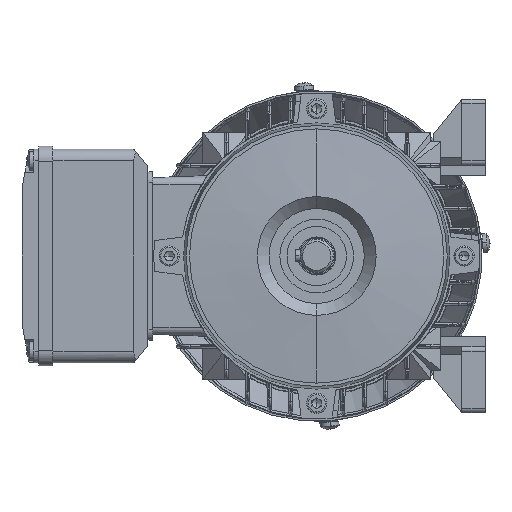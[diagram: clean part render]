
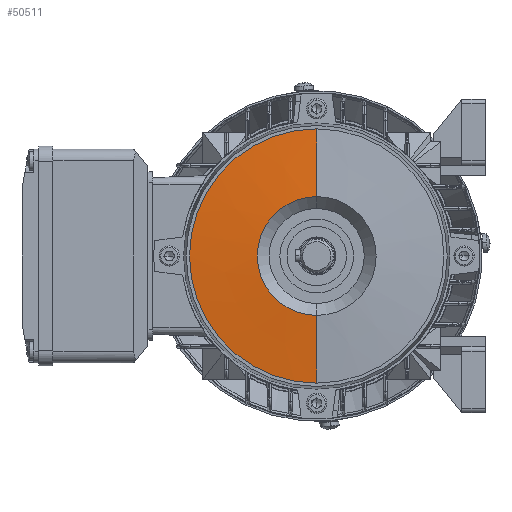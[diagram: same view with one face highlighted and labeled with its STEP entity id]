
A CAD part, left-side view. The second image highlights one B-rep face of the part: STEP entity #50511.
In plain terms, the highlighted conical face has half-angle 85 degrees and reference radius 53.5 mm.
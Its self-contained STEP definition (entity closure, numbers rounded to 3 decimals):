
#2185 = DIRECTION ( 'NONE',  ( -1., 0., 0. ) ) ;
#6574 = EDGE_CURVE ( 'NONE', #114160, #97650, #30367, .T. ) ;
#8453 = AXIS2_PLACEMENT_3D ( 'NONE', #45114, #89326, #81431 ) ;
#8851 = CARTESIAN_POINT ( 'NONE',  ( -75.173, -7.056, -53.5 ) ) ;
#11623 = ORIENTED_EDGE ( 'NONE', *, *, #6574, .T. ) ;
#14530 = VERTEX_POINT ( 'NONE', #95718 ) ;
#16937 = EDGE_LOOP ( 'NONE', ( #35667, #11623, #21678, #70841 ) ) ;
#18845 = CONICAL_SURFACE ( 'NONE', #38182, 53.5, 1.484 ) ;
#21678 = ORIENTED_EDGE ( 'NONE', *, *, #70838, .T. ) ;
#23272 = VECTOR ( 'NONE', #78750, 1000. ) ;
#26285 = FACE_OUTER_BOUND ( 'NONE', #16937, .T. ) ;
#26442 = VERTEX_POINT ( 'NONE', #8851 ) ;
#30286 = LINE ( 'NONE', #104085, #102871 ) ;
#30367 = LINE ( 'NONE', #41832, #23272 ) ;
#32999 = AXIS2_PLACEMENT_3D ( 'NONE', #67472, #2185, #39061 ) ;
#35667 = ORIENTED_EDGE ( 'NONE', *, *, #53567, .F. ) ;
#38182 = AXIS2_PLACEMENT_3D ( 'NONE', #102455, #83144, #118247 ) ;
#39061 = DIRECTION ( 'NONE',  ( 0., 0., 1. ) ) ;
#40063 = CARTESIAN_POINT ( 'NONE',  ( -77.667, -7.056, 25. ) ) ;
#41832 = CARTESIAN_POINT ( 'NONE',  ( -75.173, -7.056, 53.5 ) ) ;
#45114 = CARTESIAN_POINT ( 'NONE',  ( -75.173, -7.056, 0. ) ) ;
#47254 = DIRECTION ( 'NONE',  ( 0.087, 0., -0.996 ) ) ;
#50511 = ADVANCED_FACE ( 'NONE', ( #26285 ), #18845, .T. ) ;
#53567 = EDGE_CURVE ( 'NONE', #114160, #14530, #102612, .T. ) ;
#63141 = CARTESIAN_POINT ( 'NONE',  ( -75.173, -7.056, 53.5 ) ) ;
#67472 = CARTESIAN_POINT ( 'NONE',  ( -77.667, -7.056, 0. ) ) ;
#70838 = EDGE_CURVE ( 'NONE', #97650, #26442, #78037, .T. ) ;
#70841 = ORIENTED_EDGE ( 'NONE', *, *, #103173, .F. ) ;
#78037 = CIRCLE ( 'NONE', #8453, 53.5 ) ;
#78750 = DIRECTION ( 'NONE',  ( 0.087, 0., 0.996 ) ) ;
#81431 = DIRECTION ( 'NONE',  ( 0., 0., 1. ) ) ;
#83144 = DIRECTION ( 'NONE',  ( 1., 0., 0. ) ) ;
#89326 = DIRECTION ( 'NONE',  ( -1., 0., 0. ) ) ;
#95718 = CARTESIAN_POINT ( 'NONE',  ( -77.667, -7.056, -25. ) ) ;
#97650 = VERTEX_POINT ( 'NONE', #63141 ) ;
#102455 = CARTESIAN_POINT ( 'NONE',  ( -75.173, -7.056, 0. ) ) ;
#102612 = CIRCLE ( 'NONE', #32999, 25. ) ;
#102871 = VECTOR ( 'NONE', #47254, 1000. ) ;
#103173 = EDGE_CURVE ( 'NONE', #14530, #26442, #30286, .T. ) ;
#104085 = CARTESIAN_POINT ( 'NONE',  ( -75.173, -7.056, -53.5 ) ) ;
#114160 = VERTEX_POINT ( 'NONE', #40063 ) ;
#118247 = DIRECTION ( 'NONE',  ( 0., 0., -1. ) ) ;
